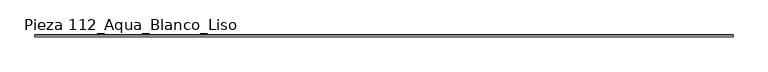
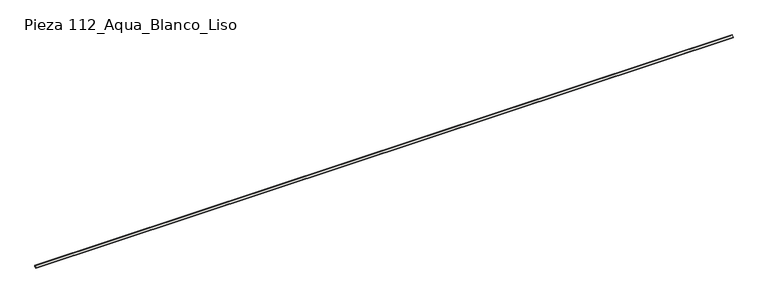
"""IFC4 building model written with IfcOpenShell, lengths in millimetres: slab geometry, ROSA GRES_112 : Pieza 112_Aqua_Blanco_Liso."""

from ifc_helpers import new_model, si_unit, point, frame, frame_2d, origin, place, context, project, spatial, polyline, circle_curve, trimmed, segment, composite_curve, outline, extrude, source, transform, mapped, element, save


def pieza_112_aqua_blanco_liso_dd8de30b(model_context):
    return source(origin(), model_context, "Body", "SweptSolid", [
        extrude(outline(composite_curve([segment(polyline([(0.0, 8.7114978), (-8.7114978, 0.0), (-40.0, 0.0), (-40.0, 9.9734114)]), True, "CONTINUOUS"), segment(trimmed(circle_curve(frame_2d((-39.9955547, 39.9955547)), 30.0221435), [point((-40.0, 9.9734114))], [point((-9.9734114, 40.0))], True, "CARTESIAN"), True, "CONTINUOUS"), segment(polyline([(-9.9734114, 40.0), (0.0, 40.0), (0.0, 8.7114978)]), True, "CONTINUOUS")], self_intersect=False)), frame((0.0, 0.0, 0.0), z_axis=(1.0, 0.0, 0.0), x_axis=(0.0, 1.0, 0.0)), (0.0, 0.0, 1.0), 15430.0),
    ])


if __name__ == "__main__":
    model = new_model("IFC4")
    model_context = context("Model", 3, world=origin())
    ifc_project = project(units=[si_unit("LENGTHUNIT", "METRE", prefix="MILLI")], contexts=[model_context])
    site = spatial("IfcSite", under=ifc_project)
    building = spatial("IfcBuilding", under=site)
    placement = place(None, origin())
    pieza_112_aqua_blanco_liso_shape = pieza_112_aqua_blanco_liso_dd8de30b(model_context)
    element("IfcSlab", 1, ObjectType="ROSA GRES_112 : Pieza 112_Aqua_Blanco_Liso", at=placement, inside=building, context=model_context, shape_type="MappedRepresentation", body=[
        mapped(pieza_112_aqua_blanco_liso_shape, transform((0.0, 0.0, 0.0), x_axis=(1.0, 0.0, 0.0), y_axis=(0.0, 1.0, 0.0), z_axis=(0.0, 0.0, 1.0))),
    ])
    save(model, "model.ifc")
